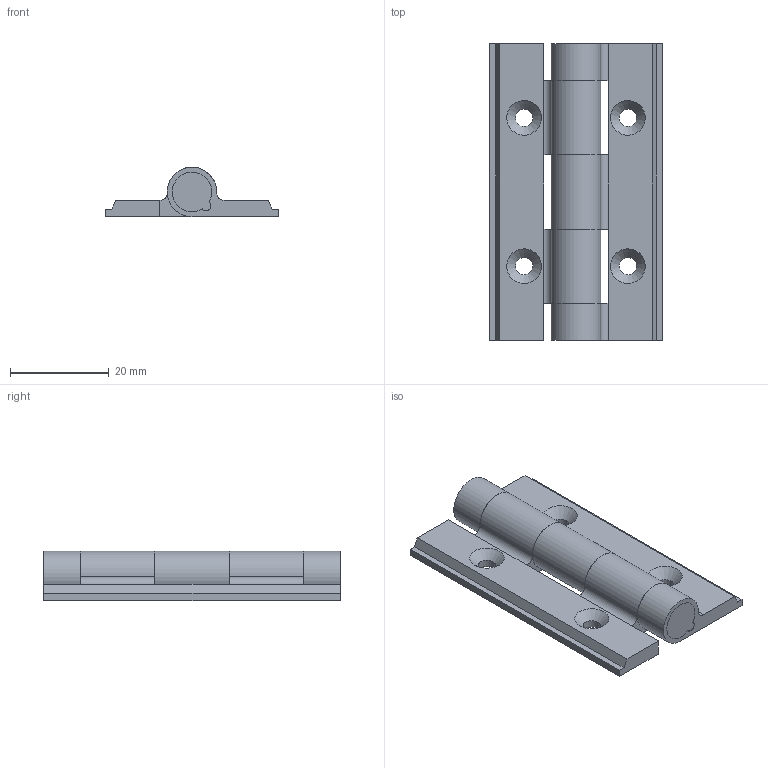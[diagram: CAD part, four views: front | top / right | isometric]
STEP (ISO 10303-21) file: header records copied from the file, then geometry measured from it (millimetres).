
FILE_DESCRIPTION(/* description */ ('Unknown'),/* implementation_level */ '2;1');
FILE_NAME(/* name */ '6896',/* time_stamp */ '2023-10-11T13:50:24+02:00',/* author */ ('Unknown'),/* organization */ ('Unknown'),/* preprocessor_version */ 'ST-DEVELOPER v16.7',/* originating_system */ 'DEX',/* authorisation */ $);
FILE_SCHEMA (('AUTOMOTIVE_DESIGN {1 0 10303 214 3 1 1}'));
Length unit declared in the file: millimetre
Products named in the file (4): 6896; TEIL1; TEIL2; TEIL3
Assembly tree (3 placements, depth 2):
  6896
    TEIL1
    TEIL2
    TEIL3
Bounding box: 35 x 60 x 9.99 mm (x, y, z)
Volume: 9132.4 mm3; surface area: 8833 mm2
Topology: 3 solids, 3 shells, 64 faces, 183 edges, 121 vertices
Faces by surface type: plane 29, cylinder 24, sphere 7, cone 4
Full cylindrical faces by diameter (mm): 3.5 x4, 8 x4
Entity records: 1951 total; most frequent: CARTESIAN_POINT 332, DIRECTION 325, ORIENTED_EDGE 290, EDGE_CURVE 145, AXIS2_PLACEMENT_3D 119, VERTEX_POINT 102, EDGE_LOOP 91, FACE_BOUND 91
